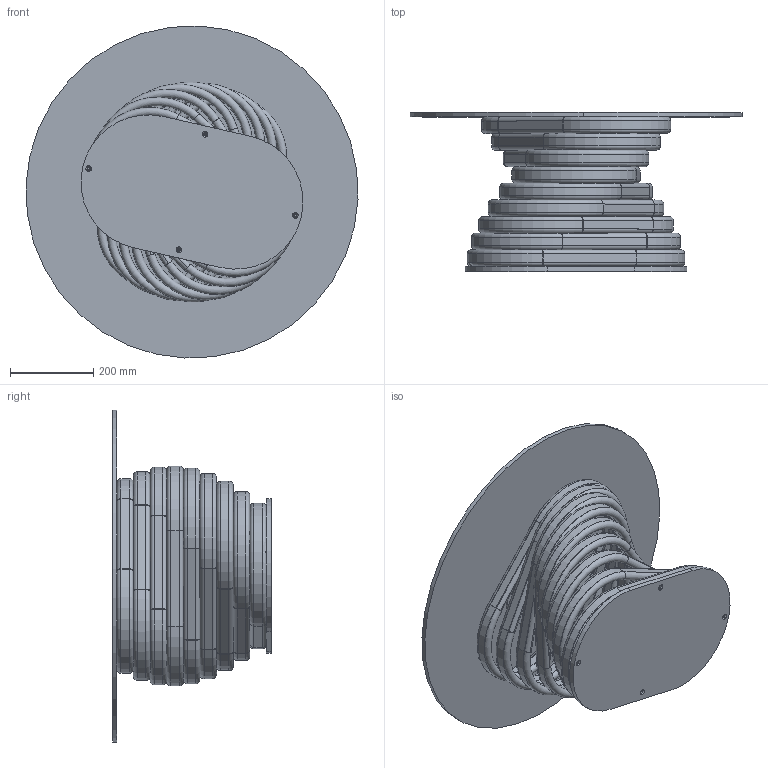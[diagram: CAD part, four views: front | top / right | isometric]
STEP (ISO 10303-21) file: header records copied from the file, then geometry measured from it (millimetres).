
FILE_DESCRIPTION (( 'STEP AP203' ), '1' );
FILE_NAME ('RL12G.STEP', '2024-08-06T12:34:50', ( '' ), ( '' ), 'SwSTEP 2.0', 'SolidWorks 2022', '' );
FILE_SCHEMA (( 'CONFIG_CONTROL_DESIGN' ));
Length unit declared in the file: millimetre
Products named in the file (9): RLBP000000INT-00-ANELLO INTERMEDIO._Default<A macchina>; RLBP000000-00-ROTOLO LOW PIASTRA; RLBP000000SUP-00-ANELLO CON PIASTRA SUPERIORE_Default<A macchina>; RLBP000000INF-00-ANELLO INFERIORE FILETTATO_Default<A macchina>; RL12G; CXXCRXX-00-Piani Rotondi in Cristallo CON PIASTRA_C02P PIANO CRISTALLO D.80cm; P0000003-00-STAFFA DI FISSAGGIO DIAMETRO 250_P0000003-250mm normale; RLB1000000-00-ROTOLO LOW 9 ANELLI; C1XCRMXX-00-piani Rotondi Cristallo_C02 D.80cm
Assembly tree (14 placements, depth 3):
  RL12G
    RLB1000000-00-ROTOLO LOW 9 ANELLI
      RLBP000000INF-00-ANELLO INFERIORE FILETTATO_Default<A macchina>
      RLBP000000INT-00-ANELLO INTERMEDIO._Default<A macchina>  x7
      RLBP000000SUP-00-ANELLO CON PIASTRA SUPERIORE_Default<A macchina>
    RLBP000000-00-ROTOLO LOW PIASTRA
    CXXCRXX-00-Piani Rotondi in Cristallo CON PIASTRA_C02P PIANO CRISTALLO D.80cm
      C1XCRMXX-00-piani Rotondi Cristallo_C02 D.80cm
      P0000003-00-STAFFA DI FISSAGGIO DIAMETRO 250_P0000003-250mm normale
Bounding box: 799.26 x 382 x 799.26 mm (x, y, z)
Volume: 9557744.3 mm3; surface area: 3840834.2 mm2
Topology: 41 solids, 41 shells, 454 faces, 1108 edges, 734 vertices
Faces by surface type: cylinder 194, plane 172, torus 72, cone 14, bspline 2
Entity records: 8023 total; most frequent: CARTESIAN_POINT 1887, DIRECTION 1110, ORIENTED_EDGE 992, EDGE_CURVE 496, AXIS2_PLACEMENT_3D 435, VERTEX_POINT 326, EDGE_LOOP 252, VECTOR 240
